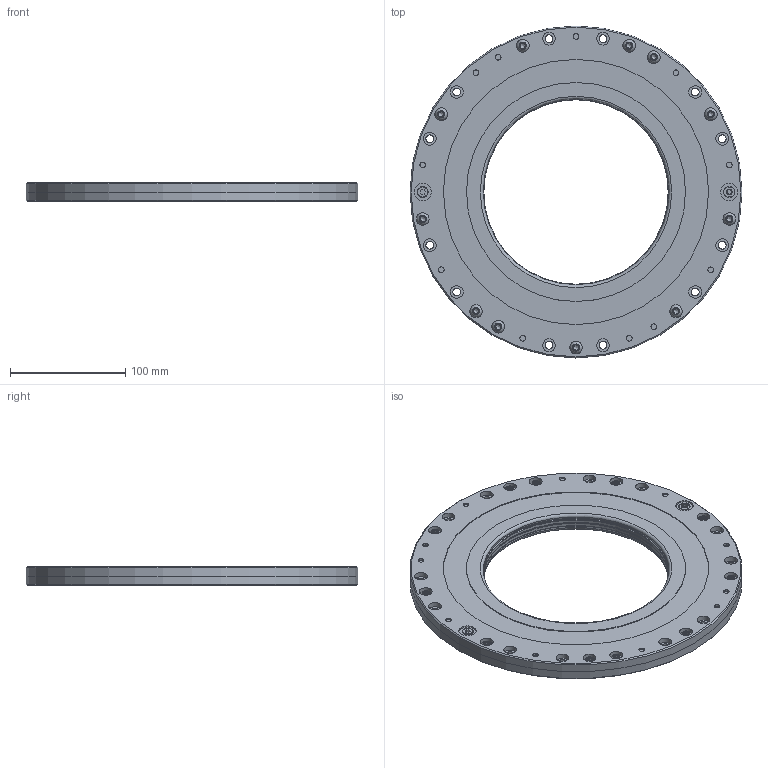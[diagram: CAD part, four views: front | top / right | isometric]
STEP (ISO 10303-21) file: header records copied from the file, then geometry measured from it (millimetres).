
FILE_DESCRIPTION(/* description */ ('Unknown'),/* implementation_level */ '2;1');
FILE_NAME(/* name */ '10039844_RotoClamp RC 160 N',/* time_stamp */ '2024-11-12T16:15:07+01:00',/* author */ ('Unknown'),/* organization */ ('Unknown'),/* preprocessor_version */ 'ST-DEVELOPER v19.4',/* originating_system */ 'Solid Edge',/* authorisation */ 'Unknown');
FILE_SCHEMA (('AUTOMOTIVE_DESIGN {1 0 10303 214 3 1 1}'));
Length unit declared in the file: millimetre
Products named in the file (8): 10039844; Verschlussschraube G1;8 x 4,5; 34-00-0096-E001_oa_0; Linsenkopfschraube ISO 7380 TX M6 x 10 Ph 012.9; 34-00-0096-E001_oa_1; Gewindestift DIN 913 - M6x4 VA; 34-06-0064-E001; 34-06-0051-E001
Assembly tree (30 placements, depth 2):
  10039844
    Verschlussschraube G1;8 x 4,5  x3
    34-00-0096-E001_oa_0
    Linsenkopfschraube ISO 7380 TX M6 x 10 Ph 012.9  x22
    34-00-0096-E001_oa_1
    Gewindestift DIN 913 - M6x4 VA
    34-06-0064-E001
    34-06-0051-E001
Bounding box: 288 x 288 x 16.4 mm (x, y, z)
Volume: 558353.4 mm3; surface area: 231008.3 mm2
Topology: 30 solids, 30 shells, 1288 faces, 3073 edges, 1910 vertices
Faces by surface type: cylinder 759, cone 210, plane 187, torus 110, sphere 22
Full cylindrical faces by diameter (mm): 1.5 x5, 4.917 x23, 5.6 x22, 6 x46, 6.8 x47, 7.4 x1, 8.4 x1, 8.566 x4, 9.728 x4, 10.5 x22, 11 x48, 13 x1, 15 x4, 160 x2, 162.2 x1, 162.3 x1, 163.6 x1, 171.6 x1, 190 x2, 230 x2, 288 x2
Entity records: 13824 total; most frequent: CARTESIAN_POINT 3056, DIRECTION 1640, ORIENTED_EDGE 1364, FACE_BOUND 792, EDGE_LOOP 790, AXIS2_PLACEMENT_3D 760, EDGE_CURVE 682, VERTEX_POINT 552
